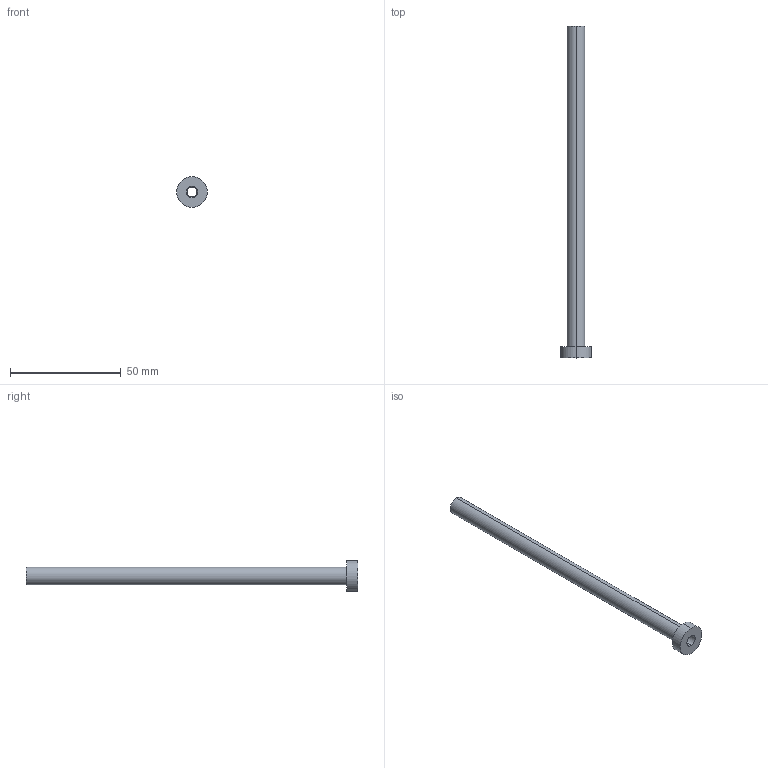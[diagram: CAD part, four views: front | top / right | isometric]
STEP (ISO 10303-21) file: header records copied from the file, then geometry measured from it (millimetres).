
FILE_DESCRIPTION (( 'STEP AP214' ), '1' );
FILE_NAME ('ET-ETN-4,5x150.STEP', '2019-12-16T15:12:45', ( 'August' ), ( '' ), 'SwSTEP 2.0', 'SolidWorks 2018', '' );
FILE_SCHEMA (( 'AUTOMOTIVE_DESIGN' ));
Length unit declared in the file: millimetre
Products named in the file (1): ET-ETN-4,5x150
Bounding box: 14 x 150 x 14 mm (x, y, z)
Volume: 5027.3 mm3; surface area: 6520.6 mm2
Topology: 1 solids, 1 shells, 13 faces, 26 edges, 16 vertices
Faces by surface type: cylinder 8, plane 3, cone 2
Entity records: 382 total; most frequent: DIRECTION 70, CARTESIAN_POINT 56, ORIENTED_EDGE 52, AXIS2_PLACEMENT_3D 30, EDGE_CURVE 26, EDGE_LOOP 16, CIRCLE 16, VERTEX_POINT 16
